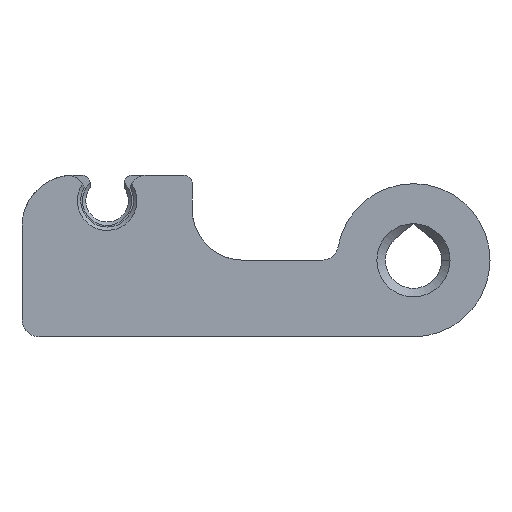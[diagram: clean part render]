
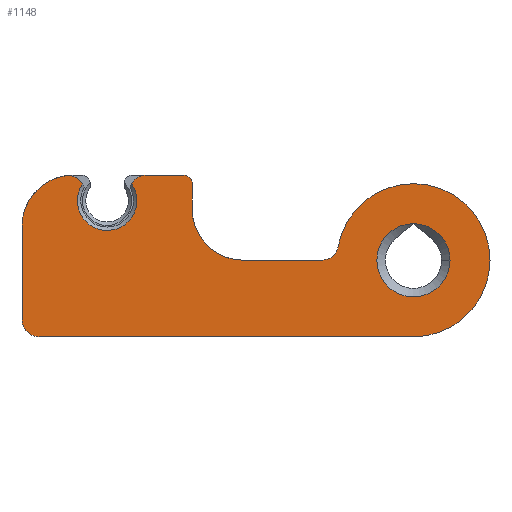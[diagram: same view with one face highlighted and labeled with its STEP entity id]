
A CAD part, front view. The second image highlights one B-rep face of the part: STEP entity #1148.
In plain terms, the highlighted planar face has unit normal (0, -1, 0).
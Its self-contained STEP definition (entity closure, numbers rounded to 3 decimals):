
#26=DIRECTION('',(1.,0.,0.));
#27=VECTOR('',#26,22.);
#28=CARTESIAN_POINT('',(-11.5,-64.2,-0.5));
#29=LINE('',#28,#27);
#81=DIRECTION('',(-1.,0.,0.));
#82=VECTOR('',#81,4.592);
#83=CARTESIAN_POINT('',(5.092,-64.2,4.));
#84=LINE('',#83,#82);
#94=CARTESIAN_POINT('',(5.092,-64.2,5.));
#95=DIRECTION('',(0.,1.,0.));
#96=DIRECTION('',(0.983,0.,-0.182));
#97=AXIS2_PLACEMENT_3D('',#94,#95,#96);
#178=CARTESIAN_POINT('',(10.5,-64.2,4.));
#179=DIRECTION('',(0.,1.,0.));
#180=DIRECTION('',(1.,0.,0.));
#181=AXIS2_PLACEMENT_3D('',#178,#179,#180);
#183=CARTESIAN_POINT('',(10.5,-64.2,6.15));
#201=CARTESIAN_POINT('',(10.5,-64.2,4.));
#202=DIRECTION('',(0.,1.,0.));
#203=DIRECTION('',(0.,0.,1.));
#204=AXIS2_PLACEMENT_3D('',#201,#202,#203);
#206=CARTESIAN_POINT('',(-11.5,-64.2,0.5));
#207=DIRECTION('',(0.,-1.,0.));
#208=DIRECTION('',(-1.,0.,0.));
#209=AXIS2_PLACEMENT_3D('',#206,#207,#208);
#211=CARTESIAN_POINT('',(-9.5,-64.2,6.));
#212=DIRECTION('',(0.,1.,0.));
#213=DIRECTION('',(-1.,0.,0.));
#214=AXIS2_PLACEMENT_3D('',#211,#212,#213);
#216=CARTESIAN_POINT('',(-9.808,-64.2,7.976));
#217=DIRECTION('',(0.,1.,0.));
#218=DIRECTION('',(-0.154,0.,0.988));
#219=AXIS2_PLACEMENT_3D('',#216,#217,#218);
#221=CARTESIAN_POINT('',(-5.185,-64.2,8.));
#222=DIRECTION('',(0.,1.,0.));
#223=DIRECTION('',(-0.872,0.,0.49));
#224=AXIS2_PLACEMENT_3D('',#221,#222,#223);
#226=CARTESIAN_POINT('',(-3.,-64.2,8.5));
#227=DIRECTION('',(0.,1.,0.));
#228=DIRECTION('',(0.,0.,1.));
#229=AXIS2_PLACEMENT_3D('',#226,#227,#228);
#231=DIRECTION('',(0.,0.,1.));
#232=VECTOR('',#231,1.5);
#233=CARTESIAN_POINT('',(-2.5,-64.2,7.));
#234=LINE('',#233,#232);
#253=CARTESIAN_POINT('',(10.5,-64.2,4.));
#254=DIRECTION('',(0.,-1.,0.));
#255=DIRECTION('',(0.,0.,-1.));
#256=AXIS2_PLACEMENT_3D('',#253,#254,#255);
#397=DIRECTION('',(0.,0.,-1.));
#398=VECTOR('',#397,5.5);
#399=CARTESIAN_POINT('',(-12.5,-64.2,6.));
#400=LINE('',#399,#398);
#419=DIRECTION('',(-1.,0.,0.));
#420=VECTOR('',#419,2.185);
#421=CARTESIAN_POINT('',(-3.,-64.2,9.));
#422=LINE('',#421,#420);
#467=CARTESIAN_POINT('',(0.5,-64.2,7.));
#468=DIRECTION('',(0.,-1.,0.));
#469=DIRECTION('',(-1.,0.,0.));
#470=AXIS2_PLACEMENT_3D('',#467,#468,#469);
#549=CARTESIAN_POINT('',(-6.057,-64.2,8.49));
#557=CARTESIAN_POINT('',(-7.5,-64.2,7.5));
#558=DIRECTION('',(0.,1.,0.));
#559=DIRECTION('',(0.825,0.,0.566));
#560=AXIS2_PLACEMENT_3D('',#557,#558,#559);
#567=CARTESIAN_POINT('',(-8.947,-64.2,8.484));
#693=CARTESIAN_POINT('',(-2.5,-64.2,7.));
#694=CARTESIAN_POINT('',(0.5,-64.2,4.));
#695=VERTEX_POINT('',#693);
#696=VERTEX_POINT('',#694);
#701=CARTESIAN_POINT('',(-12.5,-64.2,6.));
#702=CARTESIAN_POINT('',(-9.963,-64.2,8.964));
#703=VERTEX_POINT('',#701);
#704=VERTEX_POINT('',#702);
#705=CARTESIAN_POINT('',(-3.,-64.2,9.));
#706=CARTESIAN_POINT('',(-2.5,-64.2,8.5));
#707=VERTEX_POINT('',#705);
#708=VERTEX_POINT('',#706);
#713=CARTESIAN_POINT('',(-5.185,-64.2,9.));
#714=VERTEX_POINT('',#713);
#753=CARTESIAN_POINT('',(12.65,-64.2,4.));
#755=VERTEX_POINT('',#753);
#773=VERTEX_POINT('',#567);
#776=VERTEX_POINT('',#549);
#801=VERTEX_POINT('',#183);
#811=CARTESIAN_POINT('',(10.5,-64.2,-0.5));
#813=VERTEX_POINT('',#811);
#835=CARTESIAN_POINT('',(-12.5,-64.2,0.5));
#836=VERTEX_POINT('',#835);
#837=CARTESIAN_POINT('',(-11.5,-64.2,-0.5));
#838=VERTEX_POINT('',#837);
#840=CARTESIAN_POINT('',(5.092,-64.2,4.));
#842=VERTEX_POINT('',#840);
#844=CARTESIAN_POINT('',(6.075,-64.2,4.818));
#846=VERTEX_POINT('',#844);
#1111=CARTESIAN_POINT('',(12.5,-64.2,0.));
#1112=DIRECTION('',(0.,1.,0.));
#1113=DIRECTION('',(-1.,0.,0.));
#1114=AXIS2_PLACEMENT_3D('',#1111,#1112,#1113);
#1115=PLANE('',#1114);
#1116=ORIENTED_EDGE('',*,*,#948,.F.);
#1117=ORIENTED_EDGE('',*,*,#977,.F.);
#1119=ORIENTED_EDGE('',*,*,#1118,.F.);
#1120=ORIENTED_EDGE('',*,*,#866,.F.);
#1122=ORIENTED_EDGE('',*,*,#1121,.F.);
#1124=ORIENTED_EDGE('',*,*,#1123,.F.);
#1126=ORIENTED_EDGE('',*,*,#1125,.T.);
#1128=ORIENTED_EDGE('',*,*,#1127,.T.);
#1130=ORIENTED_EDGE('',*,*,#1129,.F.);
#1132=ORIENTED_EDGE('',*,*,#1131,.T.);
#1134=ORIENTED_EDGE('',*,*,#1133,.F.);
#1136=ORIENTED_EDGE('',*,*,#1135,.T.);
#1138=ORIENTED_EDGE('',*,*,#1137,.F.);
#1140=ORIENTED_EDGE('',*,*,#1139,.T.);
#1141=EDGE_LOOP('',(#1116,#1117,#1119,#1120,#1122,#1124,#1126,#1128,#1130,#1132,
#1134,#1136,#1138,#1140));
#1142=FACE_OUTER_BOUND('',#1141,.F.);
#1143=ORIENTED_EDGE('',*,*,#1102,.F.);
#1145=ORIENTED_EDGE('',*,*,#1144,.F.);
#1146=EDGE_LOOP('',(#1143,#1145));
#1147=FACE_BOUND('',#1146,.F.);
#1148=ADVANCED_FACE('',(#1142,#1147),#1115,.F.);
#98=CIRCLE('',#97,1.);
#182=CIRCLE('',#181,2.15);
#205=CIRCLE('',#204,2.15);
#210=CIRCLE('',#209,1.);
#215=CIRCLE('',#214,3.);
#220=CIRCLE('',#219,1.);
#225=CIRCLE('',#224,1.);
#230=CIRCLE('',#229,0.5);
#257=CIRCLE('',#256,4.5);
#471=CIRCLE('',#470,3.);
#561=CIRCLE('',#560,1.75);
#866=EDGE_CURVE('',#838,#813,#29,.T.);
#948=EDGE_CURVE('',#842,#696,#84,.T.);
#977=EDGE_CURVE('',#846,#842,#98,.T.);
#1102=EDGE_CURVE('',#755,#801,#182,.T.);
#1118=EDGE_CURVE('',#813,#846,#257,.T.);
#1121=EDGE_CURVE('',#836,#838,#210,.T.);
#1123=EDGE_CURVE('',#703,#836,#400,.T.);
#1125=EDGE_CURVE('',#703,#704,#215,.T.);
#1127=EDGE_CURVE('',#704,#773,#220,.T.);
#1129=EDGE_CURVE('',#776,#773,#561,.T.);
#1131=EDGE_CURVE('',#776,#714,#225,.T.);
#1133=EDGE_CURVE('',#707,#714,#422,.T.);
#1135=EDGE_CURVE('',#707,#708,#230,.T.);
#1137=EDGE_CURVE('',#695,#708,#234,.T.);
#1139=EDGE_CURVE('',#695,#696,#471,.T.);
#1144=EDGE_CURVE('',#801,#755,#205,.T.);
